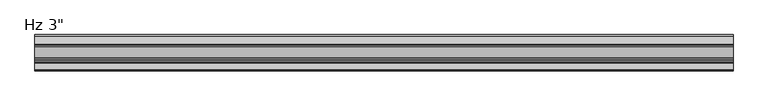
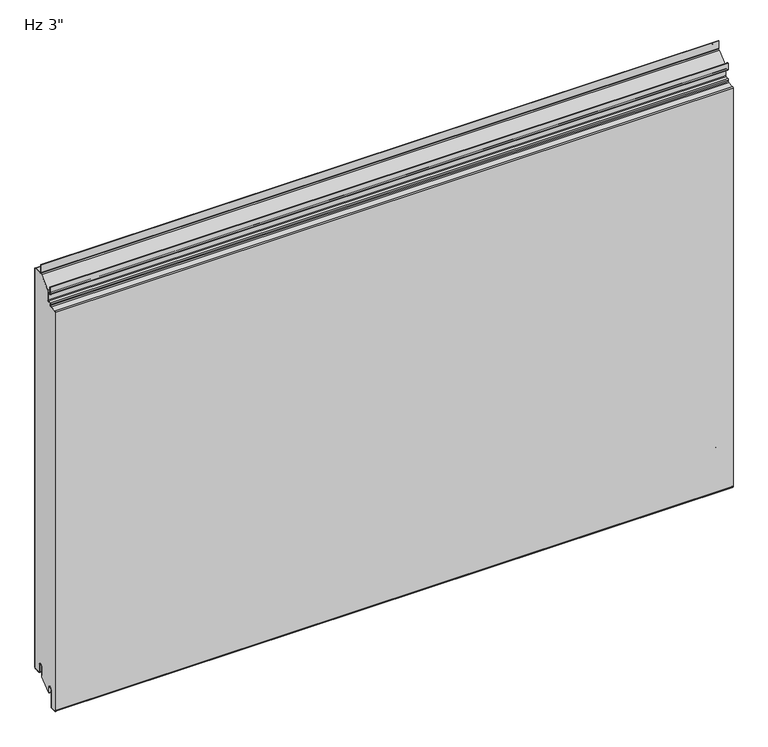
"""IFC4 building model written with IfcOpenShell, lengths in millimetres: plate geometry."""

from ifc_helpers import new_model, si_unit, point, frame, frame_2d, origin, place, context, project, spatial, polyline, circle_curve, ellipse_curve, trimmed, segment, composite_curve, outline, extrude, source, transform, mapped, element, save
from ifc_brep_helpers import plane_surface, cylinder_surface, revolved_surface, extruded_surface, advanced_brep


def plate_5019aeee(model_context):
    return source(origin(), model_context, "Body", "SolidModel", [
        extrude(outline(composite_curve([segment(trimmed(circle_curve(frame_2d((-21.43125, 19.05)), 4.96875), [point((-16.4625, 19.05))], [point((-26.4, 19.05))], True, "CARTESIAN"), True, "CONTINUOUS"), segment(polyline([(-26.4, 19.05), (-26.4, -3.1323422), (-49.2157227, -23.01875), (-50.8, -23.01875), (-50.8, -13.5080174), (-51.59375, -13.5080174), (-51.3875, -11.9205174)]), True, "CONTINUOUS"), segment(trimmed(circle_curve(frame_2d((-56.35625, -11.9205174)), 4.96875), [point((-51.3875, -11.9205174))], [point((-61.325, -11.9205174))], True, "CARTESIAN"), True, "CONTINUOUS"), segment(polyline([(-61.325, -11.9205174), (-61.325, -50.1038221)]), True, "CONTINUOUS"), segment(trimmed(circle_curve(frame_2d((-62.70625, -50.1038221)), 1.38125), [point((-61.325, -50.1038221))], [point((-62.633961, -51.4831791))], False, "CARTESIAN"), True, "CONTINUOUS"), segment(polyline([(-62.633961, -51.4831791), (-73.746461, -52.0655606)]), True, "CONTINUOUS"), segment(trimmed(circle_curve(frame_2d((-73.81875, -50.6862035)), 1.38125), [point((-73.746461, -52.0655606))], [point((-75.2, -50.6862035))], False, "CARTESIAN"), True, "CONTINUOUS"), segment(polyline([(-75.2, -50.6862035), (-75.2, 857.3572607)]), True, "CONTINUOUS"), segment(trimmed(circle_curve(frame_2d((-73.81875, 857.3572607)), 1.38125), [point((-75.2, 857.3572607))], [point((-73.891039, 858.7366177))], False, "CARTESIAN"), True, "CONTINUOUS"), segment(polyline([(-73.891039, 858.7366177), (-60.1895807, 859.4546807)]), True, "CONTINUOUS"), segment(trimmed(circle_curve(frame_2d((-60.325, 862.0386347)), 2.5875), [point((-60.1895807, 859.4546807))], [point((-57.7375, 862.0386347))], True, "CARTESIAN"), True, "CONTINUOUS"), segment(polyline([(-57.7375, 862.0386347), (-57.7375, 865.0824411)]), True, "CONTINUOUS"), segment(trimmed(circle_curve(frame_2d((-56.35625, 865.0824411)), 1.38125), [point((-57.7375, 865.0824411))], [point((-56.428539, 866.4617981))], False, "CARTESIAN"), True, "CONTINUOUS"), segment(polyline([(-56.428539, 866.4617981), (-50.6645807, 866.7638744)]), True, "CONTINUOUS"), segment(trimmed(circle_curve(frame_2d((-50.8, 869.3478283)), 2.5875), [point((-50.6645807, 866.7638744))], [point((-48.2125, 869.3478283))], True, "CARTESIAN"), True, "CONTINUOUS"), segment(polyline([(-48.2125, 869.3478283), (-48.2125, 891.7892934), (-24.9057308, 912.60625), (-2.38125, 912.60625)]), True, "CONTINUOUS"), segment(trimmed(circle_curve(frame_2d((-2.38125, 911.225)), 1.38125), [point((-2.38125, 912.60625))], [point((-1.0, 911.225))], False, "CARTESIAN"), True, "CONTINUOUS"), segment(polyline([(-1.0, 911.225), (-1.0, 3.175)]), True, "CONTINUOUS"), segment(trimmed(circle_curve(frame_2d((-2.38125, 3.175)), 1.38125), [point((-1.0, 3.175))], [point((-2.38125, 1.79375))], False, "CARTESIAN"), True, "CONTINUOUS"), segment(polyline([(-2.38125, 1.79375), (-15.08125, 1.79375)]), True, "CONTINUOUS"), segment(trimmed(circle_curve(frame_2d((-15.08125, 3.175)), 1.38125), [point((-15.08125, 1.79375))], [point((-16.4625, 3.175))], False, "CARTESIAN"), True, "CONTINUOUS"), segment(polyline([(-16.4625, 3.175), (-16.4625, 19.05)]), True, "CONTINUOUS")], self_intersect=False)), frame((-730.0, 0.0, 0.0), z_axis=(1.0, 0.0, 0.0), x_axis=(0.0, 1.0, 0.0)), (0.0, 0.0, 1.0), 1460.0),
        extrude(outline(composite_curve([segment(polyline([(-25.4, 0.79375), (-26.4, 0.79375), (-26.4, 19.05)]), True, "CONTINUOUS"), segment(trimmed(circle_curve(frame_2d((-21.43125, 19.05)), 4.96875), [point((-26.4, 19.05))], [point((-16.4625, 19.05))], False, "CARTESIAN"), True, "CONTINUOUS"), segment(polyline([(-16.4625, 19.05), (-16.4625, 3.175)]), True, "CONTINUOUS"), segment(trimmed(circle_curve(frame_2d((-15.08125, 3.175)), 1.38125), [point((-16.4625, 3.175))], [point((-15.08125, 1.79375))], True, "CARTESIAN"), True, "CONTINUOUS"), segment(polyline([(-15.08125, 1.79375), (-2.38125, 1.79375)]), True, "CONTINUOUS"), segment(trimmed(circle_curve(frame_2d((-2.38125, 3.175)), 1.38125), [point((-2.38125, 1.79375))], [point((-1.0, 3.175))], True, "CARTESIAN"), True, "CONTINUOUS"), segment(polyline([(-1.0, 3.175), (-1.0, 911.225)]), True, "CONTINUOUS"), segment(trimmed(circle_curve(frame_2d((-2.38125, 911.225)), 1.38125), [point((-1.0, 911.225))], [point((-2.38125, 912.60625))], True, "CARTESIAN"), True, "CONTINUOUS"), segment(polyline([(-2.38125, 912.60625), (-19.446875, 912.60625)]), True, "CONTINUOUS"), segment(trimmed(circle_curve(frame_2d((-19.446875, 915.19375)), 2.5875), [point((-19.446875, 912.60625))], [point((-22.034375, 915.19375))], False, "CARTESIAN"), True, "CONTINUOUS"), segment(polyline([(-22.034375, 915.19375), (-22.034375, 932.65625), (-21.034375, 932.65625), (-21.034375, 915.19375)]), True, "CONTINUOUS"), segment(trimmed(circle_curve(frame_2d((-19.446875, 915.19375)), 1.5875), [point((-21.034375, 915.19375))], [point((-19.446875, 913.60625))], True, "CARTESIAN"), True, "CONTINUOUS"), segment(polyline([(-19.446875, 913.60625), (-2.38125, 913.60625)]), True, "CONTINUOUS"), segment(trimmed(circle_curve(frame_2d((-2.38125, 911.225)), 2.38125), [point((-2.38125, 913.60625))], [point((0.0, 911.225))], False, "CARTESIAN"), True, "CONTINUOUS"), segment(polyline([(0.0, 911.225), (0.0, 3.175)]), True, "CONTINUOUS"), segment(trimmed(circle_curve(frame_2d((-2.38125, 3.175)), 2.38125), [point((0.0, 3.175))], [point((-2.38125, 0.79375))], False, "CARTESIAN"), True, "CONTINUOUS"), segment(polyline([(-2.38125, 0.79375), (-15.08125, 0.79375)]), True, "CONTINUOUS"), segment(trimmed(circle_curve(frame_2d((-15.08125, 3.175)), 2.38125), [point((-15.08125, 0.79375))], [point((-17.4625, 3.175))], False, "CARTESIAN"), True, "CONTINUOUS"), segment(polyline([(-17.4625, 3.175), (-17.4625, 19.05)]), True, "CONTINUOUS"), segment(trimmed(circle_curve(frame_2d((-21.43125, 19.05)), 3.96875), [point((-17.4625, 19.05))], [point((-25.4, 19.05))], True, "CARTESIAN"), True, "CONTINUOUS"), segment(polyline([(-25.4, 19.05), (-25.4, 0.79375)]), True, "CONTINUOUS")], self_intersect=False)), frame((-730.0, 0.0, 0.0), z_axis=(1.0, 0.0, 0.0), x_axis=(0.0, 1.0, 0.0)), (0.0, 0.0, 1.0), 1460.0),
        advanced_brep(
        [(-730.0, -50.8, -23.2314549), (-730.0, -52.3875, -23.2314549), (-730.0, -52.3875, -11.9205174), (-730.0, -60.325, -11.9205174), (-730.0, -60.325, -50.1038221), (-730.0, -62.581625, -52.4818086), (-730.0, -73.694125, -53.0641901), (-730.0, -76.2, -50.6862035), (-730.0, -76.2, 857.3572607), (-730.0, -73.943375, 859.7352473), (-730.0, -60.2419167, 860.4533103), (-730.0, -58.7375, 862.0386347), (-730.0, -58.7375, 865.0824411), (-730.0, -56.480875, 867.4604276), (-730.0, -50.7169167, 867.7625039), (-730.0, -49.2125, 869.3478283), (-730.0, -49.2125, 884.2232326), (-730.0, -50.8, 885.8107326), (-730.0, -54.9671875, 885.8107326), (-730.0, -57.3484375, 888.1919826), (-730.0, -57.3484375, 902.6836032), (-730.0, -55.5546875, 902.6836032), (-730.0, -55.5546875, 892.9544826), (-730.0, -56.3484375, 892.9544826), (-730.0, -56.3484375, 888.1919826), (-730.0, -54.9671875, 886.8107326), (-730.0, -50.8, 886.8107326), (-730.0, -48.2125, 884.2232326), (-730.0, -48.2125, 869.3478283), (-730.0, -50.6645807, 866.7638744), (-730.0, -56.428539, 866.4617981), (-730.0, -57.7375, 865.0824411), (-730.0, -57.7375, 862.0386347), (-730.0, -60.1895807, 859.4546807), (-730.0, -73.891039, 858.7366177), (-730.0, -75.2, 857.3572607), (-730.0, -75.2, -50.6862035), (-730.0, -73.746461, -52.0655606), (-730.0, -62.633961, -51.4831791), (-730.0, -61.325, -50.1038221), (-730.0, -61.325, -11.9205174), (-730.0, -51.3875, -11.9205174), (-730.0, -51.59375, -13.5080174), (-730.0, -50.8, -13.5080174), (730.0, -50.8, -23.2314549), (730.0, -50.8, -13.5080174), (730.0, -51.59375, -13.5080174), (730.0, -51.3875, -11.9205174), (730.0, -61.325, -11.9205174), (730.0, -61.325, -50.1038221), (730.0, -62.633961, -51.4831791), (730.0, -73.746461, -52.0655606), (730.0, -75.2, -50.6862035), (730.0, -75.2, 857.3572607), (730.0, -73.891039, 858.7366177), (730.0, -60.1895807, 859.4546807), (730.0, -57.7375, 862.0386347), (730.0, -57.7375, 865.0824411), (730.0, -56.428539, 866.4617981), (730.0, -50.6645807, 866.7638744), (730.0, -48.2125, 869.3478283), (730.0, -48.2125, 884.2232326), (730.0, -50.8, 886.8107326), (730.0, -54.9671875, 886.8107326), (730.0, -56.3484375, 888.1919826), (730.0, -56.3484375, 892.9544826), (730.0, -55.5546875, 892.9544826), (730.0, -55.5546875, 902.6836032), (730.0, -57.3484375, 902.6836032), (730.0, -57.3484375, 888.1919826), (730.0, -54.9671875, 885.8107326), (730.0, -50.8, 885.8107326), (730.0, -49.2125, 884.2232326), (730.0, -49.2125, 869.3478283), (730.0, -50.7169167, 867.7625039), (730.0, -56.480875, 867.4604276), (730.0, -58.7375, 865.0824411), (730.0, -58.7375, 862.0386347), (730.0, -60.2419167, 860.4533103), (730.0, -73.943375, 859.7352473), (730.0, -76.2, 857.3572607), (730.0, -76.2, -50.6862035), (730.0, -73.694125, -53.0641901), (730.0, -62.581625, -52.4818086), (730.0, -60.325, -50.1038221), (730.0, -60.325, -11.9205174), (730.0, -52.3875, -11.9205174), (730.0, -52.3875, -23.2314549)],
        [
            (0, 1, circle_curve(frame((-730.0, -51.59375, -23.2314549), z_axis=(-1.0, 0.0, 0.0), x_axis=(0.0, 0.0, 1.0)), 0.79375)),
            (1, 2),
            (2, 3, circle_curve(frame((-730.0, -56.35625, -11.9205174), z_axis=(1.0, 0.0, 0.0), x_axis=(0.0, 0.0, 1.0)), 3.96875)),
            (3, 4),
            (4, 5, circle_curve(frame((-730.0, -62.70625, -50.1038221), z_axis=(-1.0, 0.0, 0.0), x_axis=(0.0, 0.0, 1.0)), 2.38125)),
            (5, 6),
            (6, 7, circle_curve(frame((-730.0, -73.81875, -50.6862035), z_axis=(-1.0, 0.0, 0.0), x_axis=(0.0, 0.0, 1.0)), 2.38125)),
            (7, 8),
            (8, 9, circle_curve(frame((-730.0, -73.81875, 857.3572607), z_axis=(-1.0, 0.0, 0.0), x_axis=(0.0, 0.0, 1.0)), 2.38125)),
            (9, 10),
            (10, 11, circle_curve(frame((-730.0, -60.325, 862.0386347), z_axis=(1.0, 0.0, 0.0), x_axis=(0.0, 0.0, 1.0)), 1.5875)),
            (11, 12),
            (12, 13, circle_curve(frame((-730.0, -56.35625, 865.0824411), z_axis=(-1.0, 0.0, 0.0), x_axis=(0.0, 0.0, 1.0)), 2.38125)),
            (13, 14),
            (14, 15, circle_curve(frame((-730.0, -50.8, 869.3478283), z_axis=(1.0, 0.0, 0.0), x_axis=(0.0, 0.0, 1.0)), 1.5875)),
            (15, 16),
            (16, 17, circle_curve(frame((-730.0, -50.8, 884.2232326), z_axis=(1.0, 0.0, 0.0), x_axis=(0.0, 0.0, 1.0)), 1.5875)),
            (17, 18),
            (18, 19, circle_curve(frame((-730.0, -54.9671875, 888.1919826), z_axis=(-1.0, 0.0, 0.0), x_axis=(0.0, 0.0, 1.0)), 2.38125)),
            (19, 20),
            (20, 21, ellipse_curve(frame((-730.0, -56.4515625, 902.6836032), z_axis=(-1.0, 0.0, 0.0), x_axis=(0.0, 1.0, 0.0)), 0.896875, 0.7852275)),
            (21, 22),
            (22, 23),
            (23, 24),
            (24, 25, circle_curve(frame((-730.0, -54.9671875, 888.1919826), z_axis=(1.0, 0.0, 0.0), x_axis=(0.0, 0.0, 1.0)), 1.38125)),
            (25, 26),
            (26, 27, circle_curve(frame((-730.0, -50.8, 884.2232326), z_axis=(-1.0, 0.0, 0.0), x_axis=(0.0, 0.0, 1.0)), 2.5875)),
            (27, 28),
            (28, 29, circle_curve(frame((-730.0, -50.8, 869.3478283), z_axis=(-1.0, 0.0, 0.0), x_axis=(0.0, 0.0, 1.0)), 2.5875)),
            (29, 30),
            (30, 31, circle_curve(frame((-730.0, -56.35625, 865.0824411), z_axis=(1.0, 0.0, 0.0), x_axis=(0.0, 0.0, 1.0)), 1.38125)),
            (31, 32),
            (32, 33, circle_curve(frame((-730.0, -60.325, 862.0386347), z_axis=(-1.0, 0.0, 0.0), x_axis=(0.0, 0.0, 1.0)), 2.5875)),
            (33, 34),
            (34, 35, circle_curve(frame((-730.0, -73.81875, 857.3572607), z_axis=(1.0, 0.0, 0.0), x_axis=(0.0, 0.0, 1.0)), 1.38125)),
            (35, 36),
            (36, 37, circle_curve(frame((-730.0, -73.81875, -50.6862035), z_axis=(1.0, 0.0, 0.0), x_axis=(0.0, 0.0, 1.0)), 1.38125)),
            (37, 38),
            (38, 39, circle_curve(frame((-730.0, -62.70625, -50.1038221), z_axis=(1.0, 0.0, 0.0), x_axis=(0.0, 0.0, 1.0)), 1.38125)),
            (39, 40),
            (40, 41, circle_curve(frame((-730.0, -56.35625, -11.9205174), z_axis=(-1.0, 0.0, 0.0), x_axis=(0.0, 0.0, 1.0)), 4.96875)),
            (41, 42),
            (42, 43),
            (43, 0),
            (44, 45),
            (45, 46),
            (46, 47),
            (47, 48, circle_curve(frame((730.0, -56.35625, -11.9205174), z_axis=(1.0, 0.0, 0.0), x_axis=(0.0, 0.0, 1.0)), 4.96875)),
            (48, 49),
            (49, 50, circle_curve(frame((730.0, -62.70625, -50.1038221), z_axis=(-1.0, 0.0, 0.0), x_axis=(0.0, 0.0, 1.0)), 1.38125)),
            (50, 51),
            (51, 52, circle_curve(frame((730.0, -73.81875, -50.6862035), z_axis=(-1.0, 0.0, 0.0), x_axis=(0.0, 0.0, 1.0)), 1.38125)),
            (52, 53),
            (53, 54, circle_curve(frame((730.0, -73.81875, 857.3572607), z_axis=(-1.0, 0.0, 0.0), x_axis=(0.0, 0.0, 1.0)), 1.38125)),
            (54, 55),
            (55, 56, circle_curve(frame((730.0, -60.325, 862.0386347), z_axis=(1.0, 0.0, 0.0), x_axis=(0.0, 0.0, 1.0)), 2.5875)),
            (56, 57),
            (57, 58, circle_curve(frame((730.0, -56.35625, 865.0824411), z_axis=(-1.0, 0.0, 0.0), x_axis=(0.0, 0.0, 1.0)), 1.38125)),
            (58, 59),
            (59, 60, circle_curve(frame((730.0, -50.8, 869.3478283), z_axis=(1.0, 0.0, 0.0), x_axis=(0.0, 0.0, 1.0)), 2.5875)),
            (60, 61),
            (61, 62, circle_curve(frame((730.0, -50.8, 884.2232326), z_axis=(1.0, 0.0, 0.0), x_axis=(0.0, 0.0, 1.0)), 2.5875)),
            (62, 63),
            (63, 64, circle_curve(frame((730.0, -54.9671875, 888.1919826), z_axis=(-1.0, 0.0, 0.0), x_axis=(0.0, 0.0, 1.0)), 1.38125)),
            (64, 65),
            (65, 66),
            (66, 67),
            (67, 68, ellipse_curve(frame((730.0, -56.4515625, 902.6836032), z_axis=(1.0, 0.0, 0.0), x_axis=(0.0, 1.0, 0.0)), 0.896875, 0.7852275)),
            (68, 69),
            (69, 70, circle_curve(frame((730.0, -54.9671875, 888.1919826), z_axis=(1.0, 0.0, 0.0), x_axis=(0.0, 0.0, 1.0)), 2.38125)),
            (70, 71),
            (71, 72, circle_curve(frame((730.0, -50.8, 884.2232326), z_axis=(-1.0, 0.0, 0.0), x_axis=(0.0, 0.0, 1.0)), 1.5875)),
            (72, 73),
            (73, 74, circle_curve(frame((730.0, -50.8, 869.3478283), z_axis=(-1.0, 0.0, 0.0), x_axis=(0.0, 0.0, 1.0)), 1.5875)),
            (74, 75),
            (75, 76, circle_curve(frame((730.0, -56.35625, 865.0824411), z_axis=(1.0, 0.0, 0.0), x_axis=(0.0, 0.0, 1.0)), 2.38125)),
            (76, 77),
            (77, 78, circle_curve(frame((730.0, -60.325, 862.0386347), z_axis=(-1.0, 0.0, 0.0), x_axis=(0.0, 0.0, 1.0)), 1.5875)),
            (78, 79),
            (79, 80, circle_curve(frame((730.0, -73.81875, 857.3572607), z_axis=(1.0, 0.0, 0.0), x_axis=(0.0, 0.0, 1.0)), 2.38125)),
            (80, 81),
            (81, 82, circle_curve(frame((730.0, -73.81875, -50.6862035), z_axis=(1.0, 0.0, 0.0), x_axis=(0.0, 0.0, 1.0)), 2.38125)),
            (82, 83),
            (83, 84, circle_curve(frame((730.0, -62.70625, -50.1038221), z_axis=(1.0, 0.0, 0.0), x_axis=(0.0, 0.0, 1.0)), 2.38125)),
            (84, 85),
            (85, 86, circle_curve(frame((730.0, -56.35625, -11.9205174), z_axis=(-1.0, 0.0, 0.0), x_axis=(0.0, 0.0, 1.0)), 3.96875)),
            (86, 87),
            (87, 44, circle_curve(frame((730.0, -51.59375, -23.2314549), z_axis=(1.0, 0.0, 0.0), x_axis=(0.0, 0.0, 1.0)), 0.79375)),
            (23, 65),
            (64, 24),
            (28, 60),
            (59, 29),
            (58, 30),
            (57, 31),
            (56, 32),
            (55, 33),
            (54, 34),
            (53, 35),
            (52, 36),
            (51, 37),
            (50, 38),
            (49, 39),
            (48, 40),
            (43, 45),
            (44, 0),
            (87, 1),
            (86, 2),
            (85, 3),
            (84, 4),
            (83, 5),
            (82, 6),
            (81, 7),
            (80, 8),
            (79, 9),
            (78, 10),
            (77, 11),
            (76, 12),
            (75, 13),
            (74, 14),
            (73, 15),
            (72, 16),
            (71, 17),
            (70, 18),
            (69, 19),
            (68, 20),
            (27, 61),
            (26, 62),
            (25, 63),
            (21, 67),
            (66, 22),
            (41, 47),
            (46, 42),
        ],
        [
            plane_surface(frame((-730.0, -76.2, 457.2), z_axis=(-1.0, 0.0, 0.0), x_axis=(0.0, -1.0, 0.0))),
            plane_surface(frame((730.0, -76.2, 457.2), z_axis=(1.0, 0.0, 0.0), x_axis=(0.0, -1.0, 0.0))),
            plane_surface(frame((-730.0, -56.3484375, 888.1919826), z_axis=(0.0, 1.0, 0.0), x_axis=(1.0, 0.0, 0.0))),
            cylinder_surface(frame((-730.0, -50.8, 869.3478283), z_axis=(-1.0, 0.0, 0.0), x_axis=(0.0, 0.0, 1.0)), 2.5875),
            plane_surface(frame((-730.0, -56.428539, 866.4617981), z_axis=(0.0, 0.0523359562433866, -0.9986295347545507), x_axis=(1.0, 0.0, 0.0))),
            revolved_surface(polyline([(730.0, -56.35625, 866.4636911), (-730.0, -56.35625, 866.4636911)]), (-730.0, -56.35625, 865.0824411), (1.0, 0.0, 0.0)),
            plane_surface(frame((-730.0, -57.7375, 862.0386347), z_axis=(0.0, 1.0, 0.0), x_axis=(1.0, 0.0, 0.0))),
            cylinder_surface(frame((-730.0, -60.325, 862.0386347), z_axis=(-1.0, 0.0, 0.0), x_axis=(0.0, 0.0, 1.0)), 2.5875),
            plane_surface(frame((-730.0, -73.891039, 858.7366177), z_axis=(0.0, 0.05233595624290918, -0.9986295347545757), x_axis=(1.0, 0.0, 0.0))),
            revolved_surface(polyline([(730.0, -73.81875, 858.7385107), (-730.0, -73.81875, 858.7385107)]), (-730.0, -73.81875, 857.3572607), (1.0, 0.0, 0.0)),
            plane_surface(frame((-730.0, -75.2, -50.6862035), z_axis=(0.0, 1.0, 0.0), x_axis=(1.0, 0.0, 0.0))),
            revolved_surface(polyline([(730.0, -73.81875, -49.304953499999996), (-730.0, -73.81875, -49.304953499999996)]), (-730.0, -73.81875, -50.6862035), (1.0, 0.0, 0.0)),
            plane_surface(frame((-730.0, -62.633961, -51.4831791), z_axis=(0.0, -0.05233595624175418, 0.9986295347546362), x_axis=(1.0, 0.0, 0.0))),
            revolved_surface(polyline([(730.0, -62.70625, -48.7225721), (-730.0, -62.70625, -48.7225721)]), (-730.0, -62.70625, -50.1038221), (1.0, 0.0, 0.0)),
            plane_surface(frame((-730.0, -61.325, -11.9205174), z_axis=(0.0, -1.0, 0.0), x_axis=(1.0, 0.0, 0.0))),
            plane_surface(frame((-730.0, -50.8, -23.2314549), z_axis=(0.0, 1.0, 0.0), x_axis=(1.0, 0.0, 0.0))),
            cylinder_surface(frame((-730.0, -51.59375, -23.2314549), z_axis=(-1.0, 0.0, 0.0), x_axis=(0.0, 0.0, 1.0)), 0.79375),
            plane_surface(frame((-730.0, -52.3875, -11.9205174), z_axis=(0.0, -1.0, 0.0), x_axis=(1.0, 0.0, 0.0))),
            revolved_surface(polyline([(730.0, -56.35625, -7.9517674), (-730.0, -56.35625, -7.9517674)]), (-730.0, -56.35625, -11.9205174), (1.0, 0.0, 0.0)),
            plane_surface(frame((-730.0, -60.325, -50.1038221), z_axis=(0.0, 1.0, 0.0), x_axis=(1.0, 0.0, 0.0))),
            cylinder_surface(frame((-730.0, -62.70625, -50.1038221), z_axis=(-1.0, 0.0, 0.0), x_axis=(0.0, 0.0, 1.0)), 2.38125),
            plane_surface(frame((-730.0, -73.694125, -53.0641901), z_axis=(0.0, 0.05233595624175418, -0.9986295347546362), x_axis=(1.0, 0.0, 0.0))),
            cylinder_surface(frame((-730.0, -73.81875, -50.6862035), z_axis=(-1.0, 0.0, 0.0), x_axis=(0.0, 0.0, 1.0)), 2.38125),
            plane_surface(frame((-730.0, -76.2, 857.3572607), z_axis=(0.0, -1.0, 0.0), x_axis=(1.0, 0.0, 0.0))),
            cylinder_surface(frame((-730.0, -73.81875, 857.3572607), z_axis=(-1.0, 0.0, 0.0), x_axis=(0.0, 0.0, 1.0)), 2.38125),
            plane_surface(frame((-730.0, -60.2419167, 860.4533103), z_axis=(0.0, -0.052335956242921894, 0.998629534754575), x_axis=(1.0, 0.0, 0.0))),
            revolved_surface(polyline([(730.0, -60.325, 863.6261347), (-730.0, -60.325, 863.6261347)]), (-730.0, -60.325, 862.0386347), (1.0, 0.0, 0.0)),
            plane_surface(frame((-730.0, -58.7375, 865.0824411), z_axis=(0.0, -1.0, 0.0), x_axis=(1.0, 0.0, 0.0))),
            cylinder_surface(frame((-730.0, -56.35625, 865.0824411), z_axis=(-1.0, 0.0, 0.0), x_axis=(0.0, 0.0, 1.0)), 2.38125),
            plane_surface(frame((-730.0, -50.7169167, 867.7625039), z_axis=(0.0, -0.05233595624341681, 0.9986295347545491), x_axis=(1.0, 0.0, 0.0))),
            revolved_surface(polyline([(730.0, -50.8, 870.9353282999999), (-730.0, -50.8, 870.9353282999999)]), (-730.0, -50.8, 869.3478283), (1.0, 0.0, 0.0)),
            plane_surface(frame((-730.0, -49.2125, 884.2232326), z_axis=(0.0, -1.0, 0.0), x_axis=(1.0, 0.0, 0.0))),
            revolved_surface(polyline([(730.0, -50.8, 885.8107325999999), (-730.0, -50.8, 885.8107325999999)]), (-730.0, -50.8, 884.2232326), (1.0, 0.0, 0.0)),
            plane_surface(frame((-730.0, -54.9671875, 885.8107326), z_axis=(0.0, 0.0, -1.0), x_axis=(1.0, 0.0, 0.0))),
            cylinder_surface(frame((-730.0, -54.9671875, 888.1919826), z_axis=(-1.0, 0.0, 0.0), x_axis=(0.0, 0.0, 1.0)), 2.38125),
            plane_surface(frame((-730.0, -57.3484375, 902.6836032), z_axis=(0.0, -1.0, 0.0), x_axis=(1.0, 0.0, 0.0))),
            plane_surface(frame((-730.0, -48.2125, 869.3478283), z_axis=(0.0, 1.0, 0.0), x_axis=(1.0, 0.0, 0.0))),
            cylinder_surface(frame((-730.0, -50.8, 884.2232326), z_axis=(-1.0, 0.0, 0.0), x_axis=(0.0, 0.0, 1.0)), 2.5875),
            plane_surface(frame((-730.0, -50.8, 886.8107326), z_axis=(0.0, 0.0, 1.0), x_axis=(1.0, 0.0, 0.0))),
            revolved_surface(polyline([(730.0, -54.9671875, 889.5732326), (-730.0, -54.9671875, 889.5732326)]), (-730.0, -54.9671875, 888.1919826), (1.0, 0.0, 0.0)),
            plane_surface(frame((-730.0, -55.5546875, 892.9544826), z_axis=(0.0, 1.0, 0.0), x_axis=(1.0, 0.0, 0.0))),
            extruded_surface(trimmed(ellipse_curve(frame((-730.0, -56.4515625, 902.6836032), z_axis=(1.0, 0.0, 0.0), x_axis=(0.0, 1.0, 0.0)), 0.896875, 0.7852275), [point((-730.0, -55.5546875, 902.6836032))], [point((-730.0, -57.3484375, 902.6836032))], True, "CARTESIAN"), (1460.0, 0.0, 0.0), 1460.0),
            plane_surface(frame((-730.0, -51.59375, -13.5080174), z_axis=(0.0, 0.9916655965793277, -0.12883844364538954), x_axis=(1.0, 0.0, 0.0))),
            cylinder_surface(frame((-730.0, -56.35625, -11.9205174), z_axis=(-1.0, 0.0, 0.0), x_axis=(0.0, 0.0, 1.0)), 4.96875),
            plane_surface(frame((-730.0, -50.8, -13.5080174), z_axis=(0.0, 0.0, 1.0), x_axis=(1.0, 0.0, 0.0))),
            plane_surface(frame((-730.0, -56.3484375, 892.9544826), z_axis=(0.0, 0.0, -1.0), x_axis=(1.0, 0.0, 0.0))),
        ],
        [
            (0, [[1, 2, 3, 4, 5, 6, 7, 8, 9, 10, 11, 12, 13, 14, 15, 16, 17, 18, 19, 20, 21, 22, 23, 24, 25, 26, 27, 28, 29, 30, 31, 32, 33, 34, 35, 36, 37, 38, 39, 40, 41, 42, 43, 44]]),
            (1, [[45, 46, 47, 48, 49, 50, 51, 52, 53, 54, 55, 56, 57, 58, 59, 60, 61, 62, 63, 64, 65, 66, 67, 68, 69, 70, 71, 72, 73, 74, 75, 76, 77, 78, 79, 80, 81, 82, 83, 84, 85, 86, 87, 88]]),
            (2, [[89, -65, 90, -24]]),
            (3, [[91, -60, 92, -29]]),
            (4, [[-92, -59, 93, -30]]),
            (5, [[-93, -58, 94, -31]]),
            (6, [[-94, -57, 95, -32]]),
            (7, [[-95, -56, 96, -33]]),
            (8, [[-96, -55, 97, -34]]),
            (9, [[-97, -54, 98, -35]]),
            (10, [[-98, -53, 99, -36]]),
            (11, [[-99, -52, 100, -37]]),
            (12, [[-100, -51, 101, -38]]),
            (13, [[-101, -50, 102, -39]]),
            (14, [[-102, -49, 103, -40]]),
            (15, [[104, -45, 105, -44]]),
            (16, [[-105, -88, 106, -1]]),
            (17, [[-106, -87, 107, -2]]),
            (18, [[-107, -86, 108, -3]]),
            (19, [[-108, -85, 109, -4]]),
            (20, [[-109, -84, 110, -5]]),
            (21, [[-110, -83, 111, -6]]),
            (22, [[-111, -82, 112, -7]]),
            (23, [[-112, -81, 113, -8]]),
            (24, [[-113, -80, 114, -9]]),
            (25, [[-114, -79, 115, -10]]),
            (26, [[-115, -78, 116, -11]]),
            (27, [[-116, -77, 117, -12]]),
            (28, [[-117, -76, 118, -13]]),
            (29, [[-118, -75, 119, -14]]),
            (30, [[-119, -74, 120, -15]]),
            (31, [[-120, -73, 121, -16]]),
            (32, [[-121, -72, 122, -17]]),
            (33, [[-122, -71, 123, -18]]),
            (34, [[-123, -70, 124, -19]]),
            (35, [[-124, -69, 125, -20]]),
            (36, [[126, -61, -91, -28]]),
            (37, [[127, -62, -126, -27]]),
            (38, [[128, -63, -127, -26]]),
            (39, [[-90, -64, -128, -25]]),
            (40, [[129, -67, 130, -22]]),
            (41, [[-125, -68, -129, -21]]),
            (42, [[131, -47, 132, -42]]),
            (43, [[-103, -48, -131, -41]]),
            (44, [[-132, -46, -104, -43]]),
            (45, [[-130, -66, -89, -23]]),
        ],
    ),
    ])


if __name__ == "__main__":
    model = new_model("IFC4")
    model_context = context("Model", 3, world=origin())
    ifc_project = project(units=[si_unit("LENGTHUNIT", "METRE", prefix="MILLI")], contexts=[model_context])
    site = spatial("IfcSite", under=ifc_project)
    building = spatial("IfcBuilding", under=site)
    placement = place(None, origin())
    plate_shape = plate_5019aeee(model_context)
    element("IfcPlate", 1, ObjectType="KIP-36-DWTR-R19-CP-Hz-F : Hz 3\"", at=placement, inside=building, context=model_context, shape_type="MappedRepresentation", body=[
        mapped(plate_shape, transform((0.0, 0.0, 0.0), x_axis=(1.0, 0.0, 0.0), y_axis=(0.0, 1.0, 0.0), z_axis=(0.0, 0.0, 1.0))),
    ])
    save(model, "model.ifc")
